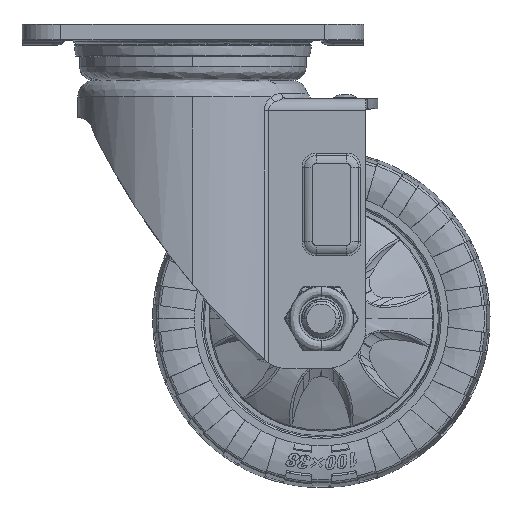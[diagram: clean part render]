
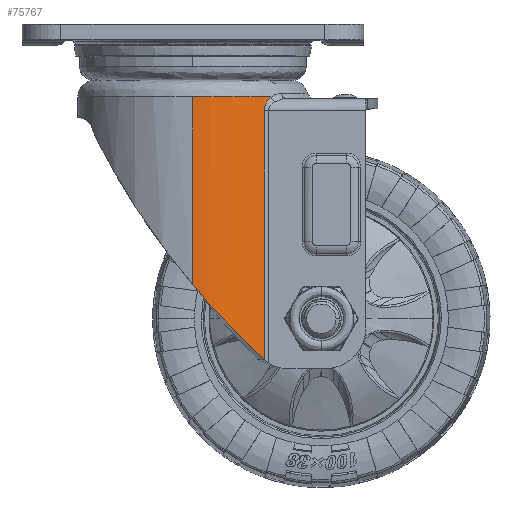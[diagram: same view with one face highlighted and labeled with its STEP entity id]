
A CAD part, top view. The second image highlights one B-rep face of the part: STEP entity #75767.
In plain terms, the highlighted cylindrical face has radius 34 mm (diameter 68 mm), a partial arc.
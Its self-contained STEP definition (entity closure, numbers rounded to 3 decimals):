
#4194 = ORIENTED_EDGE ( 'NONE', *, *, #72669, .F. ) ;
#7111 = CARTESIAN_POINT ( 'NONE',  ( 0., -88.661, 0. ) ) ;
#9778 = DIRECTION ( 'NONE',  ( 0., 1., 0. ) ) ;
#10959 = CARTESIAN_POINT ( 'NONE',  ( 21.075, -49.347, 26.681 ) ) ;
#11646 = CARTESIAN_POINT ( 'NONE',  ( 22.792, -10.734, 25.231 ) ) ;
#18716 = ORIENTED_EDGE ( 'NONE', *, *, #75546, .F. ) ;
#21930 = CARTESIAN_POINT ( 'NONE',  ( 12.164, -79.482, 31.764 ) ) ;
#30488 = CARTESIAN_POINT ( 'NONE',  ( 0., -10.5, 34. ) ) ;
#34469 = CARTESIAN_POINT ( 'NONE',  ( 21.501, -12.585, 26.34 ) ) ;
#43032 = CARTESIAN_POINT ( 'NONE',  ( 6.876, -73.885, 33.31 ) ) ;
#47456 = CARTESIAN_POINT ( 'NONE',  ( 0., -88.661, 34. ) ) ;
#57686 = FACE_OUTER_BOUND ( 'NONE', #305288, .T. ) ;
#59438 = CYLINDRICAL_SURFACE ( 'NONE', #293815, 34. ) ;
#62962 = EDGE_CURVE ( 'NONE', #112736, #317598, #240833, .T. ) ;
#67391 = CARTESIAN_POINT ( 'NONE',  ( 20., -87.154, 27.515 ) ) ;
#72473 = CARTESIAN_POINT ( 'NONE',  ( 9.511, -76.719, 32.656 ) ) ;
#72669 = EDGE_CURVE ( 'NONE', #194184, #179890, #286303, .T. ) ;
#75546 = EDGE_CURVE ( 'NONE', #317598, #194184, #150442, .T. ) ;
#75767 = ADVANCED_FACE ( 'NONE', ( #57686 ), #59438, .T. ) ;
#78298 = EDGE_CURVE ( 'NONE', #112736, #117954, #225984, .T. ) ;
#112736 = VERTEX_POINT ( 'NONE', #292988 ) ;
#113927 = LINE ( 'NONE', #10959, #208421 ) ;
#117954 = VERTEX_POINT ( 'NONE', #257151 ) ;
#118044 = CARTESIAN_POINT ( 'NONE',  ( 21.347, -12.962, 26.464 ) ) ;
#123242 = CARTESIAN_POINT ( 'NONE',  ( 16.561, -83.873, 29.711 ) ) ;
#128315 = CARTESIAN_POINT ( 'NONE',  ( 13.929, -81.272, 31.031 ) ) ;
#130046 = CARTESIAN_POINT ( 'NONE',  ( 6.001, -72.923, 33.478 ) ) ;
#138660 = VERTEX_POINT ( 'NONE', #332368 ) ;
#139648 = DIRECTION ( 'NONE',  ( 0., 0., 1. ) ) ;
#145914 = CARTESIAN_POINT ( 'NONE',  ( 21.075, -14.179, 26.68 ) ) ;
#149395 = CARTESIAN_POINT ( 'NONE',  ( 1.681, -68.03, 34. ) ) ;
#150442 = LINE ( 'NONE', #47456, #288287 ) ;
#156226 = CARTESIAN_POINT ( 'NONE',  ( 3.395, -70.011, 33.875 ) ) ;
#164104 = AXIS2_PLACEMENT_3D ( 'NONE', #220629, #9778, #196342 ) ;
#165863 = DIRECTION ( 'NONE',  ( 0., 1., 0. ) ) ;
#168659 = CARTESIAN_POINT ( 'NONE',  ( 21.868, -11.892, 26.035 ) ) ;
#173759 = CARTESIAN_POINT ( 'NONE',  ( 19.151, -86.357, 28.112 ) ) ;
#176527 = DIRECTION ( 'NONE',  ( 0., 1., 0. ) ) ;
#179890 = VERTEX_POINT ( 'NONE', #188717 ) ;
#182315 = CARTESIAN_POINT ( 'NONE',  ( 11.279, -78.57, 32.088 ) ) ;
#188717 = CARTESIAN_POINT ( 'NONE',  ( 23.05, -10.5, 24.994 ) ) ;
#190527 = CARTESIAN_POINT ( 'NONE',  ( 21.075, -88.195, 26.681 ) ) ;
#194184 = VERTEX_POINT ( 'NONE', #30488 ) ;
#196342 = DIRECTION ( 'NONE',  ( 1., 0., 0. ) ) ;
#198235 = CARTESIAN_POINT ( 'NONE',  ( 21.133, -13.758, 26.635 ) ) ;
#203334 = CARTESIAN_POINT ( 'NONE',  ( 0., -66.022, 34. ) ) ;
#208421 = VECTOR ( 'NONE', #331595, 1000. ) ;
#220629 = CARTESIAN_POINT ( 'NONE',  ( 0., -10.5, 0. ) ) ;
#220799 = CARTESIAN_POINT ( 'NONE',  ( 22.544, -10.995, 25.453 ) ) ;
#223846 = CARTESIAN_POINT ( 'NONE',  ( 0., -66.022, 34. ) ) ;
#224642 = EDGE_CURVE ( 'NONE', #179890, #138660, #264832, .T. ) ;
#225984 = B_SPLINE_CURVE_WITH_KNOTS ( 'NONE', 3,
 ( #237437, #321139, #294986, #190527 ),
 .UNSPECIFIED., .F., .F.,
 ( 4, 4 ),
 ( 0., 1. ),
 .UNSPECIFIED. ) ;
#234439 = CARTESIAN_POINT ( 'NONE',  ( 8.632, -75.784, 32.898 ) ) ;
#237437 = CARTESIAN_POINT ( 'NONE',  ( 20.821, -87.956, 26.879 ) ) ;
#240833 = B_SPLINE_CURVE_WITH_KNOTS ( 'NONE', 3,
 ( #306122, #67391, #173759, #288493, #123242, #285041, #128315, #21930, #182315, #72473, #234439, #43032, #130046, #156226, #149395, #203334 ),
 .UNSPECIFIED., .F., .F.,
 ( 4, 2, 2, 2, 2, 2, 2, 4 ),
 ( 0., 0.046, 0.092, 0.137, 0.183, 0.229, 0.275, 0.367 ),
 .UNSPECIFIED. ) ;
#252043 = CARTESIAN_POINT ( 'NONE',  ( 21.075, -14.6, 26.681 ) ) ;
#257151 = CARTESIAN_POINT ( 'NONE',  ( 21.075, -88.195, 26.681 ) ) ;
#264832 = B_SPLINE_CURVE_WITH_KNOTS ( 'NONE', 3,
 ( #334017, #11646, #220799, #299230, #168659, #34469, #118044, #198235, #145914, #252043 ),
 .UNSPECIFIED., .F., .F.,
 ( 4, 2, 2, 2, 4 ),
 ( 0., 0.25, 0.5, 0.75, 1. ),
 .UNSPECIFIED. ) ;
#277426 = EDGE_CURVE ( 'NONE', #138660, #117954, #113927, .T. ) ;
#285041 = CARTESIAN_POINT ( 'NONE',  ( 14.809, -82.151, 30.621 ) ) ;
#286303 = CIRCLE ( 'NONE', #164104, 34. ) ;
#288287 = VECTOR ( 'NONE', #176527, 1000. ) ;
#288493 = CARTESIAN_POINT ( 'NONE',  ( 17.432, -84.717, 29.209 ) ) ;
#290900 = ORIENTED_EDGE ( 'NONE', *, *, #277426, .F. ) ;
#292988 = CARTESIAN_POINT ( 'NONE',  ( 20.821, -87.956, 26.879 ) ) ;
#293815 = AXIS2_PLACEMENT_3D ( 'NONE', #7111, #165863, #139648 ) ;
#294986 = CARTESIAN_POINT ( 'NONE',  ( 20.989, -88.117, 26.748 ) ) ;
#297681 = ORIENTED_EDGE ( 'NONE', *, *, #62962, .F. ) ;
#299230 = CARTESIAN_POINT ( 'NONE',  ( 22.082, -11.574, 25.855 ) ) ;
#305288 = EDGE_LOOP ( 'NONE', ( #18716, #297681, #318792, #290900, #305650, #4194 ) ) ;
#305650 = ORIENTED_EDGE ( 'NONE', *, *, #224642, .F. ) ;
#306122 = CARTESIAN_POINT ( 'NONE',  ( 20.821, -87.956, 26.879 ) ) ;
#317598 = VERTEX_POINT ( 'NONE', #223846 ) ;
#318792 = ORIENTED_EDGE ( 'NONE', *, *, #78298, .T. ) ;
#321139 = CARTESIAN_POINT ( 'NONE',  ( 20.905, -88.037, 26.814 ) ) ;
#331595 = DIRECTION ( 'NONE',  ( 0., -1., 0. ) ) ;
#332368 = CARTESIAN_POINT ( 'NONE',  ( 21.075, -14.6, 26.681 ) ) ;
#334017 = CARTESIAN_POINT ( 'NONE',  ( 23.05, -10.5, 24.994 ) ) ;
